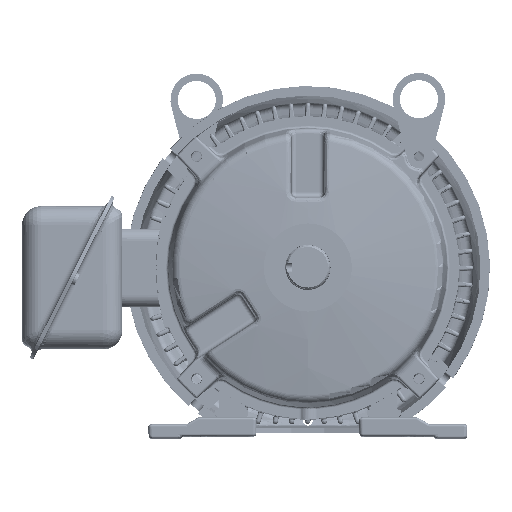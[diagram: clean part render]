
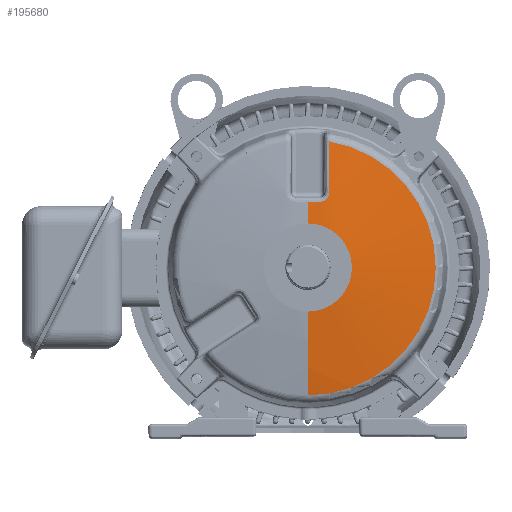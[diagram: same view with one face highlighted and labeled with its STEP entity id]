
A CAD part, top view. The second image highlights one B-rep face of the part: STEP entity #195680.
In plain terms, the highlighted spherical face has radius 533.4 mm.
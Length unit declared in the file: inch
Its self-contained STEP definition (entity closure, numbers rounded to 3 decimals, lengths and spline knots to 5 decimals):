
#184284=CARTESIAN_POINT('',(0.,0.,19.84313));
#184285=DIRECTION('',(-1.,0.,0.));
#184286=DIRECTION('',(0.,-0.055,-0.998));
#184287=AXIS2_PLACEMENT_3D('',#184284,#184285,#184286);
#184289=CARTESIAN_POINT('',(0.,0.,-1.125));
#184290=DIRECTION('',(0.,0.,1.));
#184291=DIRECTION('',(0.,1.,0.));
#184292=AXIS2_PLACEMENT_3D('',#184289,#184290,#184291);
#184294=CARTESIAN_POINT('',(0.,0.,19.84313));
#184295=DIRECTION('',(1.,0.,0.));
#184296=DIRECTION('',(0.,0.055,-0.998));
#184297=AXIS2_PLACEMENT_3D('',#184294,#184295,#184296);
#184299=CARTESIAN_POINT('',(-0.56293,3.30842,
-0.88698));
#184300=CARTESIAN_POINT('',(-0.56316,3.25217,
-0.89595));
#184301=CARTESIAN_POINT('',(-0.56364,3.13453,
-0.91424));
#184302=CARTESIAN_POINT('',(-0.56437,2.94373,
-0.94219));
#184303=CARTESIAN_POINT('',(-0.56512,2.73546,
-0.97066));
#184304=CARTESIAN_POINT('',(-0.56587,2.50758,
-0.99939));
#184305=CARTESIAN_POINT('',(-0.56662,2.25878,
-1.0279));
#184306=CARTESIAN_POINT('',(-0.56711,2.07471,
-1.04666));
#184307=CARTESIAN_POINT('',(-0.56735,1.97872,
-1.05574));
#184324=CARTESIAN_POINT('',(-0.56735,1.97872,
-1.05574));
#184325=CARTESIAN_POINT('',(-0.5674,1.95776,
-1.05772));
#184326=CARTESIAN_POINT('',(-0.56252,1.91767,
-1.06159));
#184327=CARTESIAN_POINT('',(-0.54089,1.86042,
-1.06733));
#184328=CARTESIAN_POINT('',(-0.50861,1.81309,
-1.0723));
#184329=CARTESIAN_POINT('',(-0.46841,1.77542,
-1.07646));
#184330=CARTESIAN_POINT('',(-0.42204,1.74774,
-1.07978));
#184331=CARTESIAN_POINT('',(-0.37063,1.73054,
-1.08218));
#184332=CARTESIAN_POINT('',(-0.3351,1.72659,
-1.08309));
#184333=CARTESIAN_POINT('',(-0.31666,1.72659,
-1.08337));
#184351=CARTESIAN_POINT('',(-0.31666,1.72659,
-1.08337));
#184352=CARTESIAN_POINT('',(-0.28144,1.72658,
-1.08391));
#184353=CARTESIAN_POINT('',(-0.21127,1.72655,
-1.0848));
#184354=CARTESIAN_POINT('',(-0.10538,1.72653,
-1.0856));
#184355=CARTESIAN_POINT('',(-0.03522,1.72653,
-1.08578));
#184356=CARTESIAN_POINT('',(0.,1.72653,-1.08578));
#184567=CARTESIAN_POINT('',(0.,0.,-0.88698));
#184568=DIRECTION('',(0.,0.,1.));
#184569=DIRECTION('',(-0.168,0.986,0.));
#184570=AXIS2_PLACEMENT_3D('',#184567,#184568,#184569);
#194547=CARTESIAN_POINT('',(0.,1.1565,-1.125));
#194548=CARTESIAN_POINT('',(0.,-1.1565,-1.125));
#194549=VERTEX_POINT('',#194547);
#194550=VERTEX_POINT('',#194548);
#194712=CARTESIAN_POINT('',(0.,-3.35597,-0.88698));
#194713=VERTEX_POINT('',#194712);
#194838=VERTEX_POINT('',#184299);
#194839=VERTEX_POINT('',#184307);
#194842=VERTEX_POINT('',#184333);
#194844=VERTEX_POINT('',#184356);
#195660=CARTESIAN_POINT('',(0.,0.,19.84313));
#195661=DIRECTION('',(0.,0.,-1.));
#195662=DIRECTION('',(0.,-1.,0.));
#195663=AXIS2_PLACEMENT_3D('',#195660,#195661,#195662);
#195664=SPHERICAL_SURFACE('',#195663,21.);
#195666=ORIENTED_EDGE('',*,*,#195665,.F.);
#195668=ORIENTED_EDGE('',*,*,#195667,.T.);
#195670=ORIENTED_EDGE('',*,*,#195669,.F.);
#195671=ORIENTED_EDGE('',*,*,#195647,.F.);
#195673=ORIENTED_EDGE('',*,*,#195672,.T.);
#195675=ORIENTED_EDGE('',*,*,#195674,.F.);
#195677=ORIENTED_EDGE('',*,*,#195676,.F.);
#195678=EDGE_LOOP('',(#195666,#195668,#195670,#195671,#195673,#195675,#195677));
#195679=FACE_OUTER_BOUND('',#195678,.F.);
#195680=ADVANCED_FACE('',(#195679),#195664,.T.);
#184288=CIRCLE('',#184287,21.);
#184293=CIRCLE('',#184292,1.1565);
#184298=CIRCLE('',#184297,21.);
#184308=B_SPLINE_CURVE_WITH_KNOTS('',3,(#184299,#184300,#184301,#184302,#184303,
#184304,#184305,#184306,#184307),.UNSPECIFIED.,.F.,.F.,(4,1,1,1,1,1,4),(0.,
0.16667,0.33333,0.5,0.66667,0.83333,
1.),.UNSPECIFIED.);
#184334=B_SPLINE_CURVE_WITH_KNOTS('',3,(#184324,#184325,#184326,#184327,#184328,
#184329,#184330,#184331,#184332,#184333),.UNSPECIFIED.,.F.,.F.,(4,1,1,1,1,1,1,
4),(0.,0.14286,0.28571,0.42857,
0.57143,0.71429,0.85714,1.),.UNSPECIFIED.);
#184357=B_SPLINE_CURVE_WITH_KNOTS('',3,(#184351,#184352,#184353,#184354,#184355,
#184356),.UNSPECIFIED.,.F.,.F.,(4,1,1,4),(0.,0.33333,
0.66667,1.),.UNSPECIFIED.);
#184571=CIRCLE('',#184570,3.35597);
#195647=EDGE_CURVE('',#194549,#194550,#184293,.T.);
#195665=EDGE_CURVE('',#194838,#194839,#184308,.T.);
#195667=EDGE_CURVE('',#194838,#194713,#184571,.T.);
#195669=EDGE_CURVE('',#194550,#194713,#184288,.T.);
#195672=EDGE_CURVE('',#194549,#194844,#184298,.T.);
#195674=EDGE_CURVE('',#194842,#194844,#184357,.T.);
#195676=EDGE_CURVE('',#194839,#194842,#184334,.T.);
